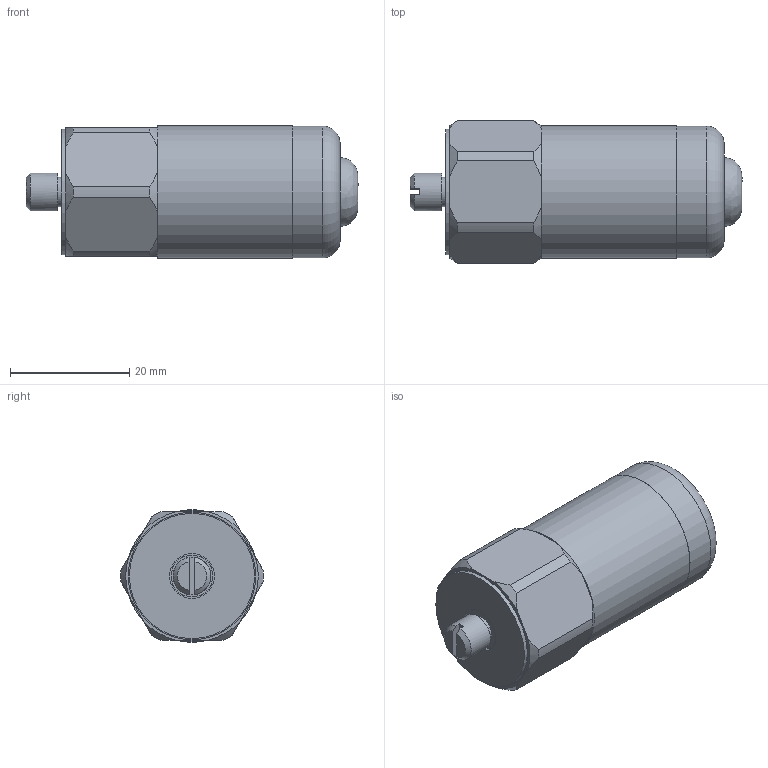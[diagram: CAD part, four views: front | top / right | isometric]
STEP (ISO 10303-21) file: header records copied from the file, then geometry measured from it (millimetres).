
FILE_DESCRIPTION(/* description */ (''),/* implementation_level */ '2;1');
FILE_NAME(/* name */ 'Z:\Engineering\Drawings\3D Library\Assemblies\Website\Premium Top\HS-150 Top Braided Cable\HS-150XXX0202.stp',/* time_stamp */ '2023-03-12T11:10:20+00:00',/* author */ ('Ricardo.Peneda'),/* organization */ (''),/* preprocessor_version */ 'ST-DEVELOPER v18.1',/* originating_system */ 'Autodesk Inventor 2021',/* authorisation */ '');
FILE_SCHEMA (('AUTOMOTIVE_DESIGN { 1 0 10303 214 3 1 1 }'));
Length unit declared in the file: inch
Products named in the file (1): HS-150XXX0202_Shrinkwrap_1
Bounding box: 55.7 x 23.99 x 22.2 mm (x, y, z)
Volume: 12243.3 mm3; surface area: 7106.3 mm2
Topology: 3 solids, 3 shells, 78 faces, 207 edges, 148 vertices
Faces by surface type: plane 39, cylinder 22, cone 15, torus 1, bspline 1
Full cylindrical faces by diameter (mm): 4.2 x1, 4.914 x2, 5.359 x1, 6.34 x2, 7.027 x1, 7.5 x1, 13.941 x1, 15.055 x1, 17.941 x1, 19.891 x1, 20 x1, 21 x1, 22.141 x1, 22.2 x1
Entity records: 2632 total; most frequent: CARTESIAN_POINT 523, DIRECTION 443, ORIENTED_EDGE 412, EDGE_CURVE 206, AXIS2_PLACEMENT_3D 191, VERTEX_POINT 148, CIRCLE 113, EDGE_LOOP 94
